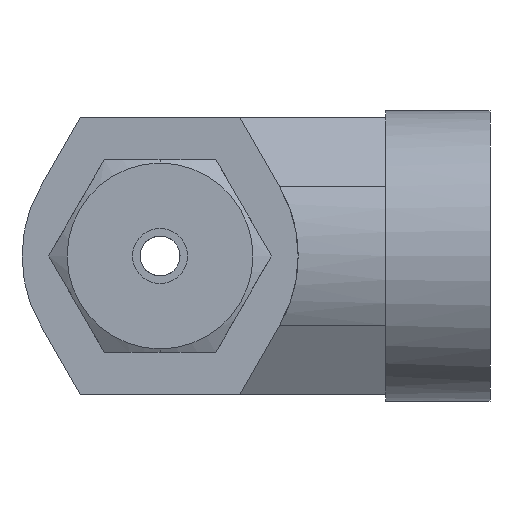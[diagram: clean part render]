
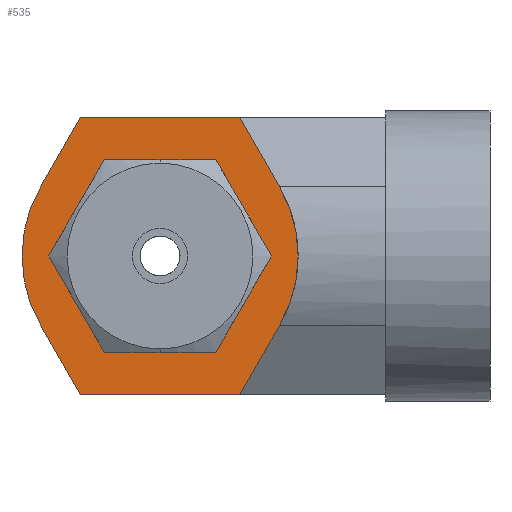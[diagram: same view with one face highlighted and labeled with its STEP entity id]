
A CAD part, left-side view. The second image highlights one B-rep face of the part: STEP entity #535.
In plain terms, the highlighted planar face has unit normal (-1, 0, 0).
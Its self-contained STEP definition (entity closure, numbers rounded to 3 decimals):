
#12 = EDGE_CURVE ( 'NONE', #738, #13, #838, .T. ) ;
#13 = VERTEX_POINT ( 'NONE', #894 ) ;
#298 = EDGE_CURVE ( 'NONE', #299, #317, #1450, .T. ) ;
#299 = VERTEX_POINT ( 'NONE', #1446 ) ;
#307 = VERTEX_POINT ( 'NONE', #1490 ) ;
#314 = VERTEX_POINT ( 'NONE', #1479 ) ;
#316 = EDGE_CURVE ( 'NONE', #317, #314, #1478, .T. ) ;
#317 = VERTEX_POINT ( 'NONE', #1473 ) ;
#326 = EDGE_CURVE ( 'NONE', #314, #335, #1522, .T. ) ;
#332 = VERTEX_POINT ( 'NONE', #1508 ) ;
#334 = EDGE_CURVE ( 'NONE', #335, #332, #1507, .T. ) ;
#335 = VERTEX_POINT ( 'NONE', #1503 ) ;
#355 = EDGE_CURVE ( 'NONE', #307, #299, #1584, .T. ) ;
#521 = ORIENTED_EDGE ( 'NONE', *, *, #326, .T. ) ;
#522 = ORIENTED_EDGE ( 'NONE', *, *, #334, .T. ) ;
#523 = ORIENTED_EDGE ( 'NONE', *, *, #524, .T. ) ;
#524 = EDGE_CURVE ( 'NONE', #332, #539, #1860, .T. ) ;
#525 = EDGE_LOOP ( 'NONE', ( #526, #528 ) ) ;
#526 = ORIENTED_EDGE ( 'NONE', *, *, #527, .F. ) ;
#527 = EDGE_CURVE ( 'NONE', #13, #738, #1853, .T. ) ;
#528 = ORIENTED_EDGE ( 'NONE', *, *, #12, .F. ) ;
#535 = ADVANCED_FACE ( 'NONE', ( #1837, #1836 ), #1835, .T. ) ;
#536 = EDGE_LOOP ( 'NONE', ( #537, #541, #543, #544, #545, #521, #522, #523 ) ) ;
#537 = ORIENTED_EDGE ( 'NONE', *, *, #538, .T. ) ;
#538 = EDGE_CURVE ( 'NONE', #539, #540, #1892, .T. ) ;
#539 = VERTEX_POINT ( 'NONE', #1887 ) ;
#540 = VERTEX_POINT ( 'NONE', #1886 ) ;
#541 = ORIENTED_EDGE ( 'NONE', *, *, #542, .T. ) ;
#542 = EDGE_CURVE ( 'NONE', #540, #307, #1885, .T. ) ;
#543 = ORIENTED_EDGE ( 'NONE', *, *, #355, .T. ) ;
#544 = ORIENTED_EDGE ( 'NONE', *, *, #298, .T. ) ;
#545 = ORIENTED_EDGE ( 'NONE', *, *, #316, .T. ) ;
#738 = VERTEX_POINT ( 'NONE', #2127 ) ;
#834 = DIRECTION ( 'NONE',  ( 0., 0., -1. ) ) ;
#835 = DIRECTION ( 'NONE',  ( -1., 0., 0. ) ) ;
#836 = CARTESIAN_POINT ( 'NONE',  ( -8.8, 0., 0. ) ) ;
#837 = AXIS2_PLACEMENT_3D ( 'NONE', #836, #835, #834 ) ;
#838 = CIRCLE ( 'NONE', #837, 3.11 ) ;
#894 = CARTESIAN_POINT ( 'NONE',  ( -8.8, 0., 3.11 ) ) ;
#1446 = CARTESIAN_POINT ( 'NONE',  ( -8.8, 4.59, 7.95 ) ) ;
#1447 = DIRECTION ( 'NONE',  ( 0., 0.5, -0.866 ) ) ;
#1448 = VECTOR ( 'NONE', #1447, 1000. ) ;
#1449 = CARTESIAN_POINT ( 'NONE',  ( -8.8, 4.59, 7.95 ) ) ;
#1450 = LINE ( 'NONE', #1449, #1448 ) ;
#1473 = CARTESIAN_POINT ( 'NONE',  ( -8.8, 6.885, 3.975 ) ) ;
#1474 = DIRECTION ( 'NONE',  ( 0., 0., -1. ) ) ;
#1475 = DIRECTION ( 'NONE',  ( -1., 0., 0. ) ) ;
#1476 = CARTESIAN_POINT ( 'NONE',  ( -8.8, 0., 0. ) ) ;
#1477 = AXIS2_PLACEMENT_3D ( 'NONE', #1476, #1475, #1474 ) ;
#1478 = CIRCLE ( 'NONE', #1477, 7.95 ) ;
#1479 = CARTESIAN_POINT ( 'NONE',  ( -8.8, 6.885, -3.975 ) ) ;
#1490 = CARTESIAN_POINT ( 'NONE',  ( -8.8, -4.59, 7.95 ) ) ;
#1503 = CARTESIAN_POINT ( 'NONE',  ( -8.8, 4.59, -7.95 ) ) ;
#1504 = DIRECTION ( 'NONE',  ( 0., -1., 0. ) ) ;
#1505 = VECTOR ( 'NONE', #1504, 1000. ) ;
#1506 = CARTESIAN_POINT ( 'NONE',  ( -8.8, 4.59, -7.95 ) ) ;
#1507 = LINE ( 'NONE', #1506, #1505 ) ;
#1508 = CARTESIAN_POINT ( 'NONE',  ( -8.8, -4.59, -7.95 ) ) ;
#1519 = DIRECTION ( 'NONE',  ( 0., -0.5, -0.866 ) ) ;
#1520 = VECTOR ( 'NONE', #1519, 1000. ) ;
#1521 = CARTESIAN_POINT ( 'NONE',  ( -8.8, 6.885, -3.975 ) ) ;
#1522 = LINE ( 'NONE', #1521, #1520 ) ;
#1581 = DIRECTION ( 'NONE',  ( 0., 1., 0. ) ) ;
#1582 = VECTOR ( 'NONE', #1581, 1000. ) ;
#1583 = CARTESIAN_POINT ( 'NONE',  ( -8.8, -4.59, 7.95 ) ) ;
#1584 = LINE ( 'NONE', #1583, #1582 ) ;
#1831 = DIRECTION ( 'NONE',  ( 0., 0., -1. ) ) ;
#1832 = DIRECTION ( 'NONE',  ( -1., 0., 0. ) ) ;
#1833 = AXIS2_PLACEMENT_3D ( 'NONE', #1834, #1832, #1831 ) ;
#1834 = CARTESIAN_POINT ( 'NONE',  ( -8.8, 0., 0. ) ) ;
#1835 = PLANE ( 'NONE',  #1833 ) ;
#1836 = FACE_BOUND ( 'NONE', #525, .T. ) ;
#1837 = FACE_OUTER_BOUND ( 'NONE', #536, .T. ) ;
#1849 = DIRECTION ( 'NONE',  ( 0., 0., -1. ) ) ;
#1850 = DIRECTION ( 'NONE',  ( -1., 0., 0. ) ) ;
#1851 = CARTESIAN_POINT ( 'NONE',  ( -8.8, 0., 0. ) ) ;
#1852 = AXIS2_PLACEMENT_3D ( 'NONE', #1851, #1850, #1849 ) ;
#1853 = CIRCLE ( 'NONE', #1852, 3.11 ) ;
#1854 = DIRECTION ( 'NONE',  ( 0., -0.5, 0.866 ) ) ;
#1855 = VECTOR ( 'NONE', #1854, 1000. ) ;
#1856 = CARTESIAN_POINT ( 'NONE',  ( -8.8, -4.59, -7.95 ) ) ;
#1860 = LINE ( 'NONE', #1856, #1855 ) ;
#1882 = DIRECTION ( 'NONE',  ( 0., 0.5, 0.866 ) ) ;
#1883 = VECTOR ( 'NONE', #1882, 1000. ) ;
#1884 = CARTESIAN_POINT ( 'NONE',  ( -8.8, -6.885, 3.975 ) ) ;
#1885 = LINE ( 'NONE', #1884, #1883 ) ;
#1886 = CARTESIAN_POINT ( 'NONE',  ( -8.8, -6.885, 3.975 ) ) ;
#1887 = CARTESIAN_POINT ( 'NONE',  ( -8.8, -6.885, -3.975 ) ) ;
#1888 = DIRECTION ( 'NONE',  ( 0., 0., -1. ) ) ;
#1889 = DIRECTION ( 'NONE',  ( -1., 0., 0. ) ) ;
#1890 = CARTESIAN_POINT ( 'NONE',  ( -8.8, 0., 0. ) ) ;
#1891 = AXIS2_PLACEMENT_3D ( 'NONE', #1890, #1889, #1888 ) ;
#1892 = CIRCLE ( 'NONE', #1891, 7.95 ) ;
#2127 = CARTESIAN_POINT ( 'NONE',  ( -8.8, 0., -3.11 ) ) ;
